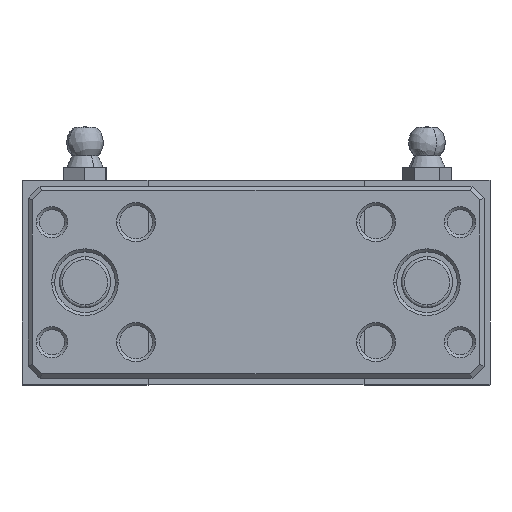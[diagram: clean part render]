
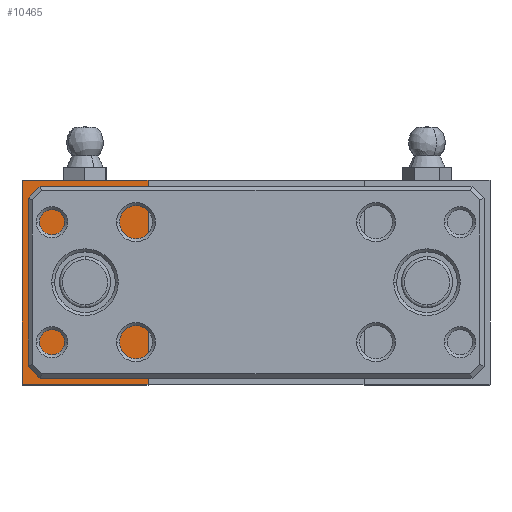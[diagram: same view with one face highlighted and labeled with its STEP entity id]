
A CAD part, top view. The second image highlights one B-rep face of the part: STEP entity #10465.
In plain terms, the highlighted planar face has unit normal (0, 0, 1).
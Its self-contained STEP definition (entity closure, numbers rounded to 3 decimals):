
#378 = VECTOR ( 'NONE', #25199, 1000. ) ;
#485 = EDGE_CURVE ( 'NONE', #23652, #24711, #18949, .T. ) ;
#761 = FACE_OUTER_BOUND ( 'NONE', #11722, .T. ) ;
#923 = LINE ( 'NONE', #3642, #15718 ) ;
#1486 = ORIENTED_EDGE ( 'NONE', *, *, #485, .F. ) ;
#1824 = AXIS2_PLACEMENT_3D ( 'NONE', #23478, #7848, #11624 ) ;
#1851 = ORIENTED_EDGE ( 'NONE', *, *, #14009, .T. ) ;
#3326 = DIRECTION ( 'NONE',  ( -1., 0., 0. ) ) ;
#3642 = CARTESIAN_POINT ( 'NONE',  ( -18., -17., -15. ) ) ;
#3901 = PLANE ( 'NONE',  #1824 ) ;
#5331 = CARTESIAN_POINT ( 'NONE',  ( -18., -17., -15. ) ) ;
#5827 = VECTOR ( 'NONE', #11163, 1000. ) ;
#7417 = CARTESIAN_POINT ( 'NONE',  ( -39., -17., -15. ) ) ;
#7848 = DIRECTION ( 'NONE',  ( 0., 0., 1. ) ) ;
#9072 = CARTESIAN_POINT ( 'NONE',  ( -18., 17., -15. ) ) ;
#9350 = CARTESIAN_POINT ( 'NONE',  ( -18., -17., -15. ) ) ;
#10465 = ADVANCED_FACE ( 'NONE', ( #761 ), #3901, .T. ) ;
#11163 = DIRECTION ( 'NONE',  ( -1., 0., 0. ) ) ;
#11624 = DIRECTION ( 'NONE',  ( 0., 1., 0. ) ) ;
#11722 = EDGE_LOOP ( 'NONE', ( #1486, #21085, #1851, #24906 ) ) ;
#14009 = EDGE_CURVE ( 'NONE', #21522, #17293, #923, .T. ) ;
#15718 = VECTOR ( 'NONE', #25360, 1000. ) ;
#17293 = VERTEX_POINT ( 'NONE', #9072 ) ;
#17340 = LINE ( 'NONE', #21021, #5827 ) ;
#17517 = CARTESIAN_POINT ( 'NONE',  ( -39., 17., -15. ) ) ;
#18590 = EDGE_CURVE ( 'NONE', #21522, #23652, #24236, .T. ) ;
#18949 = LINE ( 'NONE', #7417, #378 ) ;
#21021 = CARTESIAN_POINT ( 'NONE',  ( -18., 17., -15. ) ) ;
#21085 = ORIENTED_EDGE ( 'NONE', *, *, #18590, .F. ) ;
#21412 = CARTESIAN_POINT ( 'NONE',  ( -39., -17., -15. ) ) ;
#21522 = VERTEX_POINT ( 'NONE', #5331 ) ;
#22062 = VECTOR ( 'NONE', #3326, 1000. ) ;
#23095 = EDGE_CURVE ( 'NONE', #17293, #24711, #17340, .T. ) ;
#23478 = CARTESIAN_POINT ( 'NONE',  ( -18., -17., -15. ) ) ;
#23652 = VERTEX_POINT ( 'NONE', #21412 ) ;
#24236 = LINE ( 'NONE', #9350, #22062 ) ;
#24711 = VERTEX_POINT ( 'NONE', #17517 ) ;
#24906 = ORIENTED_EDGE ( 'NONE', *, *, #23095, .T. ) ;
#25199 = DIRECTION ( 'NONE',  ( 0., 1., 0. ) ) ;
#25360 = DIRECTION ( 'NONE',  ( 0., 1., 0. ) ) ;
